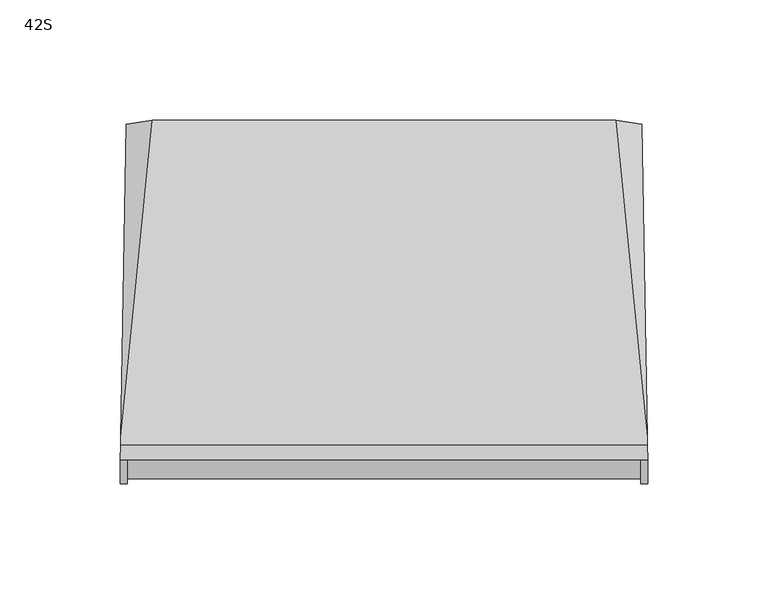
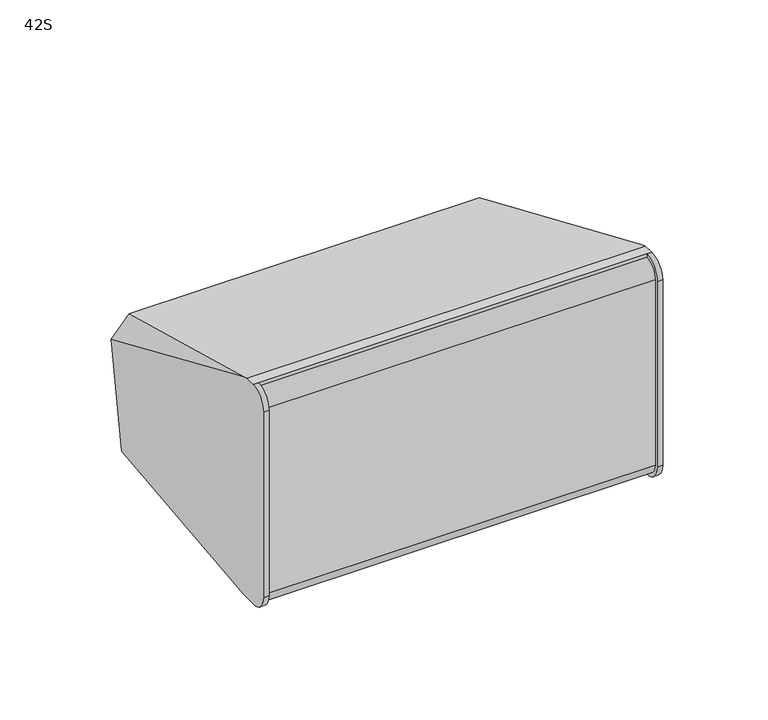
"""IFC4 building model written with IfcOpenShell, lengths in millimetres: proxy geometry, d&b xS-Series 42S Point Source : 42S."""

from ifc_helpers import new_model, si_unit, point, frame, frame_2d, origin, place, context, project, spatial, polyline, circle_curve, ellipse_curve, trimmed, segment, composite_curve, outline, extrude, source, transform, mapped, element, save
from ifc_brep_helpers import plane_surface, cylinder_surface, revolved_surface, advanced_brep


def proxy_42s_c03f11e0(model_context):
    return source(origin(), model_context, "Body", "SolidModel", [
        advanced_brep(
        [(-107.0, -66.0, -64.0), (107.0, -66.0, -64.0), (107.0, -66.0, -62.0435242), (-107.0, -66.0, -62.0435242), (107.0, -73.9650952, -54.078429), (-107.0, -73.9650952, -54.078429), (107.0, -73.9650952, 54.0), (-107.0, -73.9650952, 54.0), (107.0, -65.9650952, 62.0), (-107.0, -65.9650952, 62.0), (107.0, -65.9650952, 64.0), (-107.0, -65.9650952, 64.0), (109.8273531, -65.9650952, 64.0), (109.7253263, -60.0349048, 64.0), (-109.7253263, -60.0349048, 64.0), (-109.8273531, -65.9650952, 64.0), (-109.8279536, -66.0, -64.0), (-109.6679034, -56.6972655, -64.0), (-97.8946622, 61.6262346, -64.0), (97.8946622, 61.6262346, -64.0), (109.6679034, -56.6972655, -64.0), (109.8279536, -66.0, -64.0), (96.5142171, 75.4999923, 14.6819894), (-96.5142171, 75.4999923, 14.6819894), (-109.6679034, -56.6972655, 62.7855103), (109.6679034, -56.6972655, 62.7855103), (-107.602215, 63.3685056, -54.1190905), (107.602215, 63.3685056, -54.1190905), (107.4240938, 73.7215924, 4.5961827), (-107.4240938, 73.7215924, 4.5961827), (-109.9986507, -75.921571, -54.078429), (-109.9993995, -75.9650952, 54.0), (109.9993995, -75.9650952, 54.0), (109.9993995, -75.9650952, -54.078429), (-107.0, -75.9650952, 54.0), (-107.0, -75.9650952, -54.078429), (-95.447753, 64.9457885, -45.1738745), (-82.947753, 62.7751863, -57.4839714), (-67.052247, 62.7751863, -57.4839714), (-54.552247, 64.9457885, -45.1738745), (-54.552247, 72.167034, -4.2201563), (-67.052247, 74.3376362, 8.0899406), (-82.947753, 74.3376362, 8.0899406), (-95.447753, 72.167034, -4.2201563), (52.1, 64.9457885, -45.1738745), (64.6, 62.7751863, -57.4839714), (82.4, 62.7751863, -57.4839714), (94.9, 64.9457885, -45.1738745), (94.9, 72.167034, -4.2201563), (82.4, 74.3376362, 8.0899406), (64.6, 74.3376362, 8.0899406), (52.1, 72.167034, -4.2201563), (-95.447753, 60.0217497, -44.3056336), (-95.447753, 67.2429952, -3.3519154), (-82.947753, 69.4135974, 8.9581815), (-67.052247, 69.4135974, 8.9581815), (-54.552247, 67.2429952, -3.3519154), (-54.552247, 60.0217497, -44.3056336), (-67.052247, 57.8511475, -56.6157306), (-82.947753, 57.8511475, -56.6157306), (52.1, 60.0217497, -44.3056336), (52.1, 67.2429952, -3.3519154), (64.6, 69.4135974, 8.9581815), (82.4, 69.4135974, 8.9581815), (94.9, 67.2429952, -3.3519154), (94.9, 60.0217497, -44.3056336), (82.4, 57.8511475, -56.6157306), (64.6, 57.8511475, -56.6157306), (107.0, -75.921571, -54.078429), (107.0, -75.9650952, 54.0)],
        [
            (0, 1),
            (1, 2),
            (2, 3),
            (3, 0),
            (2, 4, circle_curve(frame((107.0, -66.0, -54.078429), z_axis=(-1.0, 0.0, 0.0), x_axis=(0.0, 0.0, -1.0)), 7.9650952)),
            (4, 5),
            (5, 3, circle_curve(frame((-107.0, -66.0, -54.078429), z_axis=(1.0, 0.0, 0.0), x_axis=(0.0, 0.0, -1.0)), 7.9650952)),
            (4, 6),
            (6, 7),
            (7, 5),
            (6, 8, circle_curve(frame((107.0, -65.9650952, 54.0), z_axis=(-1.0, 0.0, 0.0), x_axis=(0.0, 0.0, -1.0)), 8.0)),
            (8, 9),
            (9, 7, circle_curve(frame((-107.0, -65.9650952, 54.0), z_axis=(1.0, 0.0, 0.0), x_axis=(0.0, 0.0, -1.0)), 8.0)),
            (8, 10),
            (10, 11),
            (11, 9),
            (10, 12),
            (12, 13),
            (13, 14),
            (14, 15),
            (15, 11),
            (0, 16),
            (16, 17),
            (17, 18),
            (18, 19),
            (19, 20),
            (20, 21),
            (21, 1),
            (22, 23),
            (23, 24),
            (24, 14),
            (13, 25),
            (25, 22),
            (26, 18),
            (17, 26),
            (19, 27),
            (27, 20),
            (28, 22),
            (25, 28),
            (23, 29),
            (29, 24),
            (29, 26),
            (16, 30, ellipse_curve(frame((-109.8279536, -66.0, -54.078429), z_axis=(-0.999852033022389, 0.017202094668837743, 0.0), x_axis=(-0.01720209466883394, -0.999852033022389, 0.0)), 9.9230392, 9.921571)),
            (30, 31),
            (31, 15, ellipse_curve(frame((-109.8273531, -65.9650952, 54.0), z_axis=(-0.999852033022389, 0.017202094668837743, 0.0), x_axis=(-0.01720209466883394, -0.999852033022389, 0.0)), 10.0014799, 10.0)),
            (12, 32, ellipse_curve(frame((109.8273531, -65.9650952, 54.0), z_axis=(0.9998520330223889, 0.017202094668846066, 0.0), x_axis=(-0.017202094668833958, 0.999852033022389, 0.0)), 10.0014799, 10.0)),
            (32, 33),
            (33, 21, ellipse_curve(frame((109.8279536, -66.0, -54.078429), z_axis=(0.9998520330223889, 0.017202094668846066, 0.0), x_axis=(-0.017202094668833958, 0.999852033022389, 0.0)), 9.9230392, 9.921571)),
            (27, 28),
            (11, 34, circle_curve(frame((-107.0, -65.9650952, 54.0), z_axis=(1.0, 0.0, 0.0), x_axis=(0.0, 0.0, -1.0)), 10.0)),
            (34, 35),
            (35, 0, circle_curve(frame((-107.0, -66.0, -54.078429), z_axis=(1.0, 0.0, 0.0), x_axis=(0.0, 0.0, -1.0)), 9.921571)),
            (35, 30),
            (34, 31),
            (36, 37, circle_curve(frame((-82.947753, 64.9457885, -45.1738745), z_axis=(0.0, -0.9848077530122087, 0.17364817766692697), x_axis=(0.0, 0.17364817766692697, 0.9848077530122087)), 12.5)),
            (37, 38),
            (38, 39, circle_curve(frame((-67.052247, 64.9457885, -45.1738745), z_axis=(0.0, -0.9848077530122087, 0.17364817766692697), x_axis=(0.0, 0.17364817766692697, 0.9848077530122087)), 12.5)),
            (39, 40),
            (40, 41, circle_curve(frame((-67.052247, 72.167034, -4.2201563), z_axis=(0.0, -0.9848077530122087, 0.17364817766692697), x_axis=(0.0, 0.17364817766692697, 0.9848077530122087)), 12.5)),
            (41, 42),
            (42, 43, circle_curve(frame((-82.947753, 72.167034, -4.2201563), z_axis=(0.0, -0.9848077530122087, 0.17364817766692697), x_axis=(0.0, 0.17364817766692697, 0.9848077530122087)), 12.5)),
            (43, 36),
            (44, 45, circle_curve(frame((64.6, 64.9457885, -45.1738745), z_axis=(0.0, -0.9848077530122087, 0.17364817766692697), x_axis=(0.0, 0.17364817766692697, 0.9848077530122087)), 12.5)),
            (45, 46),
            (46, 47, circle_curve(frame((82.4, 64.9457885, -45.1738745), z_axis=(0.0, -0.9848077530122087, 0.17364817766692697), x_axis=(0.0, 0.17364817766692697, 0.9848077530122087)), 12.5)),
            (47, 48),
            (48, 49, circle_curve(frame((82.4, 72.167034, -4.2201563), z_axis=(0.0, -0.9848077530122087, 0.17364817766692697), x_axis=(0.0, 0.17364817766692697, 0.9848077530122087)), 12.5)),
            (49, 50),
            (50, 51, circle_curve(frame((64.6, 72.167034, -4.2201563), z_axis=(0.0, -0.9848077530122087, 0.17364817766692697), x_axis=(0.0, 0.17364817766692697, 0.9848077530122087)), 12.5)),
            (51, 44),
            (52, 53),
            (53, 54, circle_curve(frame((-82.947753, 67.2429952, -3.3519154), z_axis=(0.0, 0.9848077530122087, -0.17364817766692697), x_axis=(0.0, 0.17364817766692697, 0.9848077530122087)), 12.5)),
            (54, 55),
            (55, 56, circle_curve(frame((-67.052247, 67.2429952, -3.3519154), z_axis=(0.0, 0.9848077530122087, -0.17364817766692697), x_axis=(0.0, 0.17364817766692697, 0.9848077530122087)), 12.5)),
            (56, 57),
            (57, 58, circle_curve(frame((-67.052247, 60.0217497, -44.3056336), z_axis=(0.0, 0.9848077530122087, -0.17364817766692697), x_axis=(0.0, 0.17364817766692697, 0.9848077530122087)), 12.5)),
            (58, 59),
            (59, 52, circle_curve(frame((-82.947753, 60.0217497, -44.3056336), z_axis=(0.0, 0.9848077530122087, -0.17364817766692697), x_axis=(0.0, 0.17364817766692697, 0.9848077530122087)), 12.5)),
            (60, 61),
            (61, 62, circle_curve(frame((64.6, 67.2429952, -3.3519154), z_axis=(0.0, 0.9848077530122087, -0.17364817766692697), x_axis=(0.0, 0.17364817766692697, 0.9848077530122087)), 12.5)),
            (62, 63),
            (63, 64, circle_curve(frame((82.4, 67.2429952, -3.3519154), z_axis=(0.0, 0.9848077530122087, -0.17364817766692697), x_axis=(0.0, 0.17364817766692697, 0.9848077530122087)), 12.5)),
            (64, 65),
            (65, 66, circle_curve(frame((82.4, 60.0217497, -44.3056336), z_axis=(0.0, 0.9848077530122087, -0.17364817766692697), x_axis=(0.0, 0.17364817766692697, 0.9848077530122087)), 12.5)),
            (66, 67),
            (67, 60, circle_curve(frame((64.6, 60.0217497, -44.3056336), z_axis=(0.0, 0.9848077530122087, -0.17364817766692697), x_axis=(0.0, 0.17364817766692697, 0.9848077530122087)), 12.5)),
            (1, 68, circle_curve(frame((107.0, -66.0, -54.078429), z_axis=(-1.0, 0.0, 0.0), x_axis=(0.0, 0.0, -1.0)), 9.921571)),
            (68, 69),
            (69, 10, circle_curve(frame((107.0, -65.9650952, 54.0), z_axis=(-1.0, 0.0, 0.0), x_axis=(0.0, 0.0, -1.0)), 10.0)),
            (33, 68),
            (32, 69),
            (59, 37),
            (36, 52),
            (58, 38),
            (57, 39),
            (56, 40),
            (55, 41),
            (54, 42),
            (53, 43),
            (67, 45),
            (44, 60),
            (66, 46),
            (65, 47),
            (64, 48),
            (63, 49),
            (62, 50),
            (61, 51),
        ],
        [
            plane_surface(frame((-107.0, -66.0, -64.0), z_axis=(0.0, -1.0, 0.0), x_axis=(1.0, 0.0, 0.0))),
            cylinder_surface(frame((107.0, -66.0, -54.078429), z_axis=(-1.0, 0.0, 0.0), x_axis=(0.0, 0.0, -1.0)), 7.9650952),
            plane_surface(frame((-107.0, -73.9650952, -54.078429), z_axis=(0.0, -1.0, 0.0), x_axis=(1.0, 0.0, 0.0))),
            cylinder_surface(frame((107.0, -65.9650952, 54.0), z_axis=(-1.0, 0.0, 0.0), x_axis=(0.0, 0.0, -1.0)), 8.0),
            plane_surface(frame((-107.0, -65.9650952, 62.0), z_axis=(0.0, -1.0, 0.0), x_axis=(1.0, 0.0, 0.0))),
            plane_surface(frame((-107.0, -65.9650952, 64.0), z_axis=(0.0, 0.0, 1.0), x_axis=(1.0, 0.0, 0.0))),
            plane_surface(frame((-107.0, -60.0349048, -64.0), z_axis=(0.0, 0.0, -1.0), x_axis=(1.0, 0.0, 0.0))),
            plane_surface(frame((0.0, 76.0, 14.5000481), z_axis=(0.0, 0.34194264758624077, 0.939720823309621), x_axis=(-1.0, 0.0, 0.0))),
            plane_surface(frame((-103.232233, 76.0, -57.232233), z_axis=(-0.7053631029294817, 0.07018394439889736, -0.7053631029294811), x_axis=(0.7071067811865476, 0.0, -0.7071067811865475))),
            plane_surface(frame((103.232233, 76.0, -57.232233), z_axis=(0.7053631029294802, 0.07018394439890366, -0.7053631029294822), x_axis=(0.7071067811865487, 0.0, 0.7071067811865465))),
            plane_surface(frame((103.232233, 76.0, 7.7322812), z_axis=(0.6719558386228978, 0.31136907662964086, 0.671955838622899), x_axis=(-0.7071067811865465, 0.0, 0.7071067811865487))),
            plane_surface(frame((-103.232233, 76.0, 7.7322812), z_axis=(-0.6719558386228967, 0.311369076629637, 0.6719558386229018), x_axis=(-0.7071067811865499, 0.0, -0.7071067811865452))),
            plane_surface(frame((-110.3665166, -97.3033587, 100.0), z_axis=(-0.999852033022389, 0.017202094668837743, 0.0), x_axis=(0.0, 0.0, -1.0))),
            plane_surface(frame((107.2474477, 83.9889493, 100.0), z_axis=(0.9998520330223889, 0.017202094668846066, 0.0), x_axis=(0.0, 0.0, -1.0))),
            plane_surface(frame((-107.0, -66.0, -64.0), z_axis=(1.0, 0.0, 0.0), x_axis=(0.0, 1.0, 0.0))),
            cylinder_surface(frame((-107.0, -66.0, -54.078429), z_axis=(-1.0, 0.0, 0.0), x_axis=(0.0, 0.0, -1.0)), 9.921571),
            plane_surface(frame((-112.6426388, -75.9650952, -54.078429), z_axis=(0.0, -1.0, 0.0), x_axis=(1.0, 0.0, 0.0))),
            cylinder_surface(frame((-107.0, -65.9650952, 54.0), z_axis=(-1.0, 0.0, 0.0), x_axis=(0.0, 0.0, -1.0)), 10.0),
            plane_surface(frame((-250.0, 58.5830883, -81.2585403), z_axis=(0.0, 0.9848077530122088, -0.17364817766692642), x_axis=(1.0, 0.0, 0.0))),
            plane_surface(frame((-82.947753, 62.192352, -31.9955367), z_axis=(0.0, 0.9848077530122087, -0.17364817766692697), x_axis=(-1.0, 0.0, 0.0))),
            plane_surface(frame((107.0, -66.0, -64.0), z_axis=(-1.0, 0.0, 0.0), x_axis=(0.0, -1.0, 0.0))),
            cylinder_surface(frame((113.0, -66.0, -54.078429), z_axis=(-1.0, 0.0, 0.0), x_axis=(0.0, 0.0, -1.0)), 9.921571),
            plane_surface(frame((107.0, -75.9650952, -54.078429), z_axis=(0.0, -1.0, 0.0), x_axis=(1.0, 0.0, 0.0))),
            cylinder_surface(frame((113.0, -65.9650952, 54.0), z_axis=(-1.0, 0.0, 0.0), x_axis=(0.0, 0.0, -1.0)), 10.0),
            revolved_surface(polyline([(-82.947753, 62.19235191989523, -31.995536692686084), (-82.947753, 67.11639073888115, -32.863777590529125)]), (-82.947753, 64.9457885, -45.1738745), (0.0, -0.9848077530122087, 0.17364817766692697)),
            plane_surface(frame((-82.947753, 57.8511475, -56.6157306), z_axis=(0.0, 0.17364817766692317, 0.9848077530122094), x_axis=(0.0, 0.9848077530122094, -0.17364817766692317))),
            revolved_surface(polyline([(-67.052247, 62.19235191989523, -31.995536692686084), (-67.052247, 67.11639073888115, -32.863777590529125)]), (-67.052247, 64.9457885, -45.1738745), (0.0, -0.9848077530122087, 0.17364817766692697)),
            plane_surface(frame((-54.552247, 60.0217497, -44.3056336), z_axis=(-1.0, 0.0, 0.0), x_axis=(0.0, 0.9848077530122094, -0.17364817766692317))),
            revolved_surface(polyline([(-67.052247, 69.41359740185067, 8.958181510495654), (-67.052247, 74.33763622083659, 8.089940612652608)]), (-67.052247, 72.167034, -4.2201563), (0.0, -0.9848077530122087, 0.17364817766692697)),
            plane_surface(frame((-67.052247, 69.4135974, 8.9581815), z_axis=(0.0, -0.17364817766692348, -0.9848077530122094), x_axis=(0.0, 0.9848077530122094, -0.17364817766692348))),
            revolved_surface(polyline([(-82.947753, 69.41359740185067, 8.958181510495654), (-82.947753, 74.33763622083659, 8.089940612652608)]), (-82.947753, 72.167034, -4.2201563), (0.0, -0.9848077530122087, 0.17364817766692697)),
            plane_surface(frame((-95.447753, 67.2429952, -3.3519154), z_axis=(1.0, 0.0, 0.0), x_axis=(0.0, 0.9848077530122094, -0.17364817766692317))),
            revolved_surface(polyline([(64.6, 62.19235191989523, -31.995536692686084), (64.6, 67.11639073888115, -32.863777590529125)]), (64.6, 64.9457885, -45.1738745), (0.0, -0.9848077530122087, 0.17364817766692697)),
            plane_surface(frame((64.6, 57.8511475, -56.6157306), z_axis=(0.0, 0.17364817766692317, 0.9848077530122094), x_axis=(0.0, 0.9848077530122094, -0.17364817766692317))),
            revolved_surface(polyline([(82.4, 62.19235191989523, -31.995536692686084), (82.4, 67.11639073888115, -32.863777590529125)]), (82.4, 64.9457885, -45.1738745), (0.0, -0.9848077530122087, 0.17364817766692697)),
            plane_surface(frame((94.9, 60.0217497, -44.3056336), z_axis=(-1.0, 0.0, 0.0), x_axis=(0.0, 0.9848077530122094, -0.17364817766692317))),
            revolved_surface(polyline([(82.4, 69.41359740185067, 8.958181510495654), (82.4, 74.33763622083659, 8.089940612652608)]), (82.4, 72.167034, -4.2201563), (0.0, -0.9848077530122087, 0.17364817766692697)),
            plane_surface(frame((82.4, 69.4135974, 8.9581815), z_axis=(0.0, -0.17364817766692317, -0.9848077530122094), x_axis=(0.0, 0.9848077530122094, -0.17364817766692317))),
            revolved_surface(polyline([(64.6, 69.41359740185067, 8.958181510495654), (64.6, 74.33763622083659, 8.089940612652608)]), (64.6, 72.167034, -4.2201563), (0.0, -0.9848077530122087, 0.17364817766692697)),
            plane_surface(frame((52.1, 67.2429952, -3.3519154), z_axis=(1.0, 0.0, 0.0), x_axis=(0.0, 0.9848077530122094, -0.17364817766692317))),
        ],
        [
            (0, [[1, 2, 3, 4]]),
            (1, [[-3, 5, 6, 7]]),
            (2, [[-6, 8, 9, 10]]),
            (3, [[-9, 11, 12, 13]]),
            (4, [[-12, 14, 15, 16]]),
            (5, [[-15, 17, 18, 19, 20, 21]]),
            (6, [[-1, 22, 23, 24, 25, 26, 27, 28]]),
            (7, [[29, 30, 31, -19, 32, 33]]),
            (8, [[34, -24, 35]]),
            (9, [[-26, 36, 37]]),
            (10, [[38, -33, 39]]),
            (11, [[-30, 40, 41]]),
            (12, [[-20, -31, -41, 42, -35, -23, 43, 44, 45]]),
            (13, [[-18, 46, 47, 48, -27, -37, 49, -39, -32]]),
            (14, [[50, 51, 52, -4, -7, -10, -13, -16]]),
            (15, [[-52, 53, -43, -22]]),
            (16, [[-51, 54, -44, -53]]),
            (17, [[-50, -21, -45, -54]]),
            (18, [[-25, -34, -42, -40, -29, -38, -49, -36], [55, 56, 57, 58, 59, 60, 61, 62], [63, 64, 65, 66, 67, 68, 69, 70]]),
            (19, [[71, 72, 73, 74, 75, 76, 77, 78]]),
            (19, [[79, 80, 81, 82, 83, 84, 85, 86]]),
            (20, [[87, 88, 89, -14, -11, -8, -5, -2]]),
            (21, [[-87, -28, -48, 90]]),
            (22, [[-88, -90, -47, 91]]),
            (23, [[-89, -91, -46, -17]]),
            (24, [[-78, 92, -55, 93]]),
            (25, [[-77, 94, -56, -92]]),
            (26, [[-76, 95, -57, -94]]),
            (27, [[-75, 96, -58, -95]]),
            (28, [[-74, 97, -59, -96]]),
            (29, [[-73, 98, -60, -97]]),
            (30, [[-72, 99, -61, -98]]),
            (31, [[-71, -93, -62, -99]]),
            (32, [[-86, 100, -63, 101]]),
            (33, [[-85, 102, -64, -100]]),
            (34, [[-84, 103, -65, -102]]),
            (35, [[-83, 104, -66, -103]]),
            (36, [[-82, 105, -67, -104]]),
            (37, [[-81, 106, -68, -105]]),
            (38, [[-80, 107, -69, -106]]),
            (39, [[-79, -101, -70, -107]]),
        ],
    ),
        extrude(outline(composite_curve([segment(trimmed(circle_curve(frame_2d((0.0, -12.0)), 12.0), [point((0.0, -24.0))], [point((0.0, 0.0))], False, "CARTESIAN"), True, "CONTINUOUS"), segment(trimmed(circle_curve(frame_2d((0.0, -12.0)), 12.0), [point((0.0, 0.0))], [point((0.0, -24.0))], False, "CARTESIAN"), True, "CONTINUOUS")], self_intersect=False)), frame((74.8471384, 63.8750306, -51.2464444), z_axis=(0.0, -0.9848077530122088, 0.17364817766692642), x_axis=(-1.0, 0.0, 0.0)), (0.0, 0.0, 1.0), 5.0),
        extrude(outline(composite_curve([segment(trimmed(circle_curve(frame_2d((0.0, -42.0)), 12.0), [point((0.0, -54.0))], [point((0.0, -30.0))], False, "CARTESIAN"), True, "CONTINUOUS"), segment(trimmed(circle_curve(frame_2d((0.0, -42.0)), 12.0), [point((0.0, -30.0))], [point((0.0, -54.0))], False, "CARTESIAN"), True, "CONTINUOUS")], self_intersect=False)), frame((74.8471384, 63.8750306, -51.2464444), z_axis=(0.0, -0.9848077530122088, 0.17364817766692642), x_axis=(-1.0, 0.0, 0.0)), (0.0, 0.0, 1.0), 5.0),
    ])


if __name__ == "__main__":
    model = new_model("IFC4")
    model_context = context("Model", 3, world=origin())
    ifc_project = project(units=[si_unit("LENGTHUNIT", "METRE", prefix="MILLI")], contexts=[model_context])
    site = spatial("IfcSite", under=ifc_project)
    building = spatial("IfcBuilding", under=site)
    placement = place(None, origin())
    proxy_42s_shape = proxy_42s_c03f11e0(model_context)
    element("IfcBuildingElementProxy", 1, Name="d&b xS-Series 42S Point Source : 42S", ObjectType="d&b xS-Series 42S Point Source : 42S", at=placement, inside=building, context=model_context, shape_type="MappedRepresentation", body=[
        mapped(proxy_42s_shape, transform((0.0, 0.0, 0.0), x_axis=(1.0, 0.0, 0.0), y_axis=(0.0, 1.0, 0.0), z_axis=(0.0, 0.0, 1.0))),
    ])
    save(model, "model.ifc")
